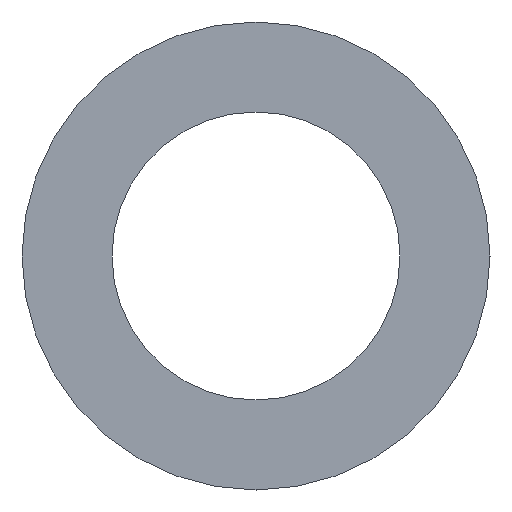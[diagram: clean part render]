
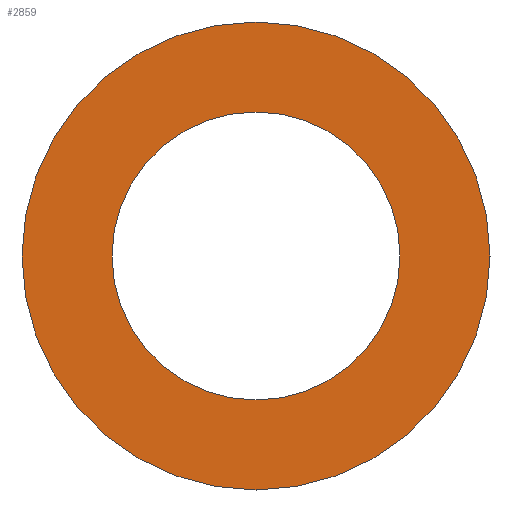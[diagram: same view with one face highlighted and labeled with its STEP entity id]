
A CAD part, front view. The second image highlights one B-rep face of the part: STEP entity #2859.
In plain terms, the highlighted planar face has unit normal (0, -1, 0).
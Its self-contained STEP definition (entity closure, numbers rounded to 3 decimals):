
#141 = CIRCLE ( 'NONE', #1093, 32.5 ) ;
#230 = DIRECTION ( 'NONE',  ( 0., 0., 1. ) ) ;
#254 = VERTEX_POINT ( 'NONE', #1303 ) ;
#351 = CARTESIAN_POINT ( 'NONE',  ( 0., -15.5, 0. ) ) ;
#361 = EDGE_CURVE ( 'NONE', #3035, #3425, #2636, .T. ) ;
#452 = CIRCLE ( 'NONE', #1308, 32.5 ) ;
#464 = FACE_OUTER_BOUND ( 'NONE', #1692, .T. ) ;
#518 = AXIS2_PLACEMENT_3D ( 'NONE', #3371, #541, #3096 ) ;
#527 = CARTESIAN_POINT ( 'NONE',  ( 0., -15.5, 32.5 ) ) ;
#541 = DIRECTION ( 'NONE',  ( 0., -1., 0. ) ) ;
#693 = VERTEX_POINT ( 'NONE', #527 ) ;
#750 = EDGE_CURVE ( 'NONE', #3425, #3035, #1683, .T. ) ;
#794 = AXIS2_PLACEMENT_3D ( 'NONE', #1104, #3097, #3390 ) ;
#854 = CARTESIAN_POINT ( 'NONE',  ( 0., -15.5, -20. ) ) ;
#1093 = AXIS2_PLACEMENT_3D ( 'NONE', #2598, #3444, #3454 ) ;
#1104 = CARTESIAN_POINT ( 'NONE',  ( 0., -15.5, 0. ) ) ;
#1110 = CARTESIAN_POINT ( 'NONE',  ( 0., -15.5, 20. ) ) ;
#1228 = FACE_BOUND ( 'NONE', #1880, .T. ) ;
#1303 = CARTESIAN_POINT ( 'NONE',  ( 0., -15.5, -32.5 ) ) ;
#1308 = AXIS2_PLACEMENT_3D ( 'NONE', #351, #2632, #2334 ) ;
#1435 = ORIENTED_EDGE ( 'NONE', *, *, #361, .F. ) ;
#1683 = CIRCLE ( 'NONE', #518, 20. ) ;
#1692 = EDGE_LOOP ( 'NONE', ( #2267, #2304 ) ) ;
#1880 = EDGE_LOOP ( 'NONE', ( #2599, #1435 ) ) ;
#2267 = ORIENTED_EDGE ( 'NONE', *, *, #2966, .T. ) ;
#2304 = ORIENTED_EDGE ( 'NONE', *, *, #3635, .T. ) ;
#2334 = DIRECTION ( 'NONE',  ( 0., 0., -1. ) ) ;
#2598 = CARTESIAN_POINT ( 'NONE',  ( 0., -15.5, 0. ) ) ;
#2599 = ORIENTED_EDGE ( 'NONE', *, *, #750, .F. ) ;
#2632 = DIRECTION ( 'NONE',  ( 0., -1., 0. ) ) ;
#2636 = CIRCLE ( 'NONE', #794, 20. ) ;
#2815 = PLANE ( 'NONE',  #3201 ) ;
#2859 = ADVANCED_FACE ( 'NONE', ( #1228, #464 ), #2815, .F. ) ;
#2966 = EDGE_CURVE ( 'NONE', #254, #693, #141, .T. ) ;
#3035 = VERTEX_POINT ( 'NONE', #3538 ) ;
#3092 = DIRECTION ( 'NONE',  ( 0., 1., 0. ) ) ;
#3096 = DIRECTION ( 'NONE',  ( 0., 0., -1. ) ) ;
#3097 = DIRECTION ( 'NONE',  ( 0., -1., 0. ) ) ;
#3201 = AXIS2_PLACEMENT_3D ( 'NONE', #1110, #3092, #230 ) ;
#3371 = CARTESIAN_POINT ( 'NONE',  ( 0., -15.5, 0. ) ) ;
#3390 = DIRECTION ( 'NONE',  ( 0., 0., -1. ) ) ;
#3425 = VERTEX_POINT ( 'NONE', #854 ) ;
#3444 = DIRECTION ( 'NONE',  ( 0., -1., 0. ) ) ;
#3454 = DIRECTION ( 'NONE',  ( 0., 0., -1. ) ) ;
#3538 = CARTESIAN_POINT ( 'NONE',  ( 0., -15.5, 20. ) ) ;
#3635 = EDGE_CURVE ( 'NONE', #693, #254, #452, .T. ) ;
